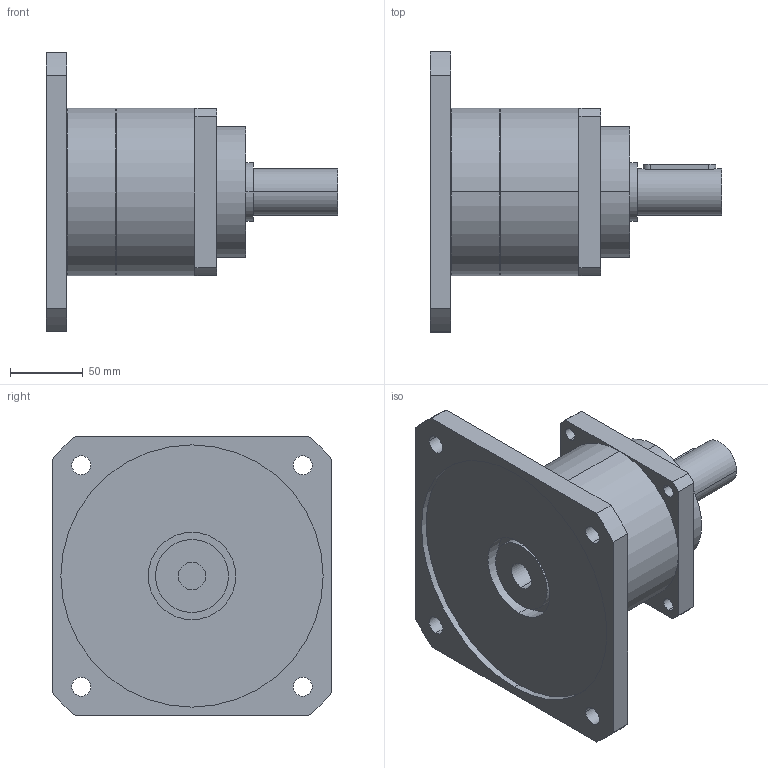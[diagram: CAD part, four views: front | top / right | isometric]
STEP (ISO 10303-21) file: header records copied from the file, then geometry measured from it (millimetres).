
FILE_DESCRIPTION(('CoCreate Modeling STEP Export'),'2;1');
FILE_NAME('GPT120_ig-3-4-5-7-10_32_B5A_19_P09.stp','2015-02-04T16:08:40',(''),(''),'CoCreate Modeling STEP processor for AP214 (Solid Model)','CoCreate Modeling 16.00C 25-Feb-2009 (C) Parametric Technology GmbH','');
FILE_SCHEMA(('AUTOMOTIVE_DESIGN { 1 0 10303 214 1 1 1 1 }'));
Length unit declared in the file: millimetre
Products named in the file (2): GPT120_ig-3-4-5-7-10_32_B5A_19_P09
Assembly tree (1 placements, depth 2):
  GPT120_ig-3-4-5-7-10_32_B5A_19_P09
    GPT120_ig-3-4-5-7-10_32_B5A_19_P09
Bounding box: 200 x 192 x 192 mm (x, y, z)
Volume: 1652756.4 mm3; surface area: 150566.9 mm2
Topology: 1 solids, 1 shells, 77 faces, 206 edges, 141 vertices
Faces by surface type: cylinder 46, plane 27, cone 4
Entity records: 2578 total; most frequent: CARTESIAN_POINT 761, ORIENTED_EDGE 412, DIRECTION 320, EDGE_CURVE 206, VERTEX_POINT 141, AXIS2_PLACEMENT_3D 118, EDGE_LOOP 103, VECTOR 84
